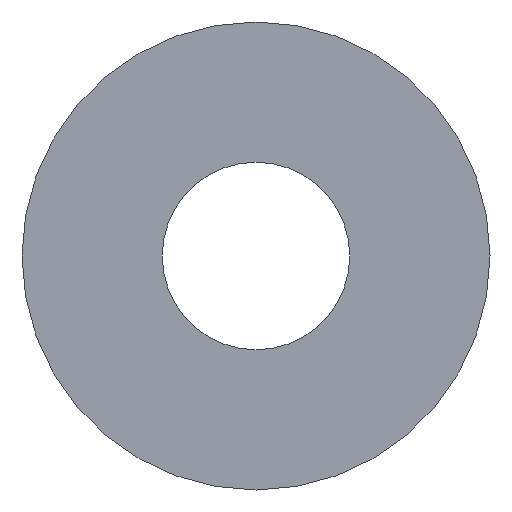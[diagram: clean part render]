
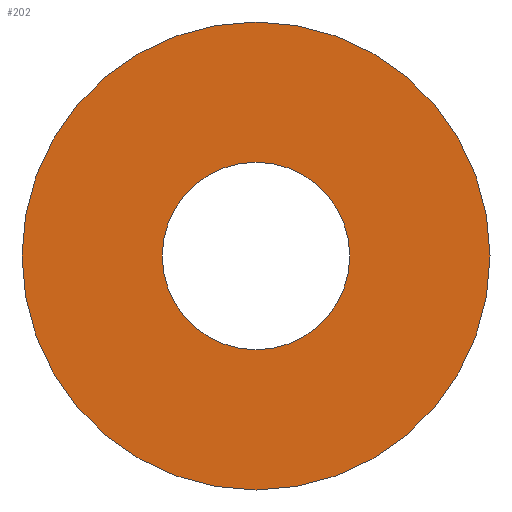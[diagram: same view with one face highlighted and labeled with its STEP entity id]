
A CAD part, front view. The second image highlights one B-rep face of the part: STEP entity #202.
In plain terms, the highlighted planar face has unit normal (0, -1, 0).
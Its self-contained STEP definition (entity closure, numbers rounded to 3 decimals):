
#21 = CARTESIAN_POINT ( 'NONE',  ( 0., 0., -94. ) ) ;
#23 = EDGE_CURVE ( 'NONE', #95, #33, #220, .T. ) ;
#28 = EDGE_CURVE ( 'NONE', #35, #226, #146, .T. ) ;
#32 = ORIENTED_EDGE ( 'NONE', *, *, #28, .F. ) ;
#33 = VERTEX_POINT ( 'NONE', #193 ) ;
#35 = VERTEX_POINT ( 'NONE', #40 ) ;
#38 = ORIENTED_EDGE ( 'NONE', *, *, #97, .T. ) ;
#40 = CARTESIAN_POINT ( 'NONE',  ( 0., 0., 234.7 ) ) ;
#43 = DIRECTION ( 'NONE',  ( 0., 0., 1. ) ) ;
#56 = DIRECTION ( 'NONE',  ( 0., 1., 0. ) ) ;
#59 = PLANE ( 'NONE',  #241 ) ;
#64 = DIRECTION ( 'NONE',  ( 0., 1., 0. ) ) ;
#76 = ORIENTED_EDGE ( 'NONE', *, *, #141, .F. ) ;
#79 = FACE_BOUND ( 'NONE', #209, .T. ) ;
#80 = DIRECTION ( 'NONE',  ( 0., 0., 1. ) ) ;
#81 = CARTESIAN_POINT ( 'NONE',  ( 0., 0., 0. ) ) ;
#82 = DIRECTION ( 'NONE',  ( 0., 0., 1. ) ) ;
#95 = VERTEX_POINT ( 'NONE', #21 ) ;
#96 = AXIS2_PLACEMENT_3D ( 'NONE', #216, #153, #196 ) ;
#97 = EDGE_CURVE ( 'NONE', #33, #95, #120, .T. ) ;
#109 = AXIS2_PLACEMENT_3D ( 'NONE', #81, #56, #43 ) ;
#115 = AXIS2_PLACEMENT_3D ( 'NONE', #134, #215, #82 ) ;
#116 = CARTESIAN_POINT ( 'NONE',  ( 0., 0., 0. ) ) ;
#120 = CIRCLE ( 'NONE', #96, 94. ) ;
#122 = CARTESIAN_POINT ( 'NONE',  ( 0., 0., -234.7 ) ) ;
#134 = CARTESIAN_POINT ( 'NONE',  ( 0., 0., 0. ) ) ;
#141 = EDGE_CURVE ( 'NONE', #226, #35, #188, .T. ) ;
#146 = CIRCLE ( 'NONE', #115, 234.7 ) ;
#150 = ORIENTED_EDGE ( 'NONE', *, *, #23, .T. ) ;
#151 = CARTESIAN_POINT ( 'NONE',  ( 0., 0., 0. ) ) ;
#153 = DIRECTION ( 'NONE',  ( 0., 1., 0. ) ) ;
#154 = FACE_OUTER_BOUND ( 'NONE', #210, .T. ) ;
#188 = CIRCLE ( 'NONE', #194, 234.7 ) ;
#189 = DIRECTION ( 'NONE',  ( 0., 1., 0. ) ) ;
#193 = CARTESIAN_POINT ( 'NONE',  ( 0., 0., 94. ) ) ;
#194 = AXIS2_PLACEMENT_3D ( 'NONE', #116, #189, #249 ) ;
#196 = DIRECTION ( 'NONE',  ( 0., 0., 1. ) ) ;
#202 = ADVANCED_FACE ( 'NONE', ( #154, #79 ), #59, .F. ) ;
#209 = EDGE_LOOP ( 'NONE', ( #150, #38 ) ) ;
#210 = EDGE_LOOP ( 'NONE', ( #76, #32 ) ) ;
#215 = DIRECTION ( 'NONE',  ( 0., 1., 0. ) ) ;
#216 = CARTESIAN_POINT ( 'NONE',  ( 0., 0., 0. ) ) ;
#220 = CIRCLE ( 'NONE', #109, 94. ) ;
#226 = VERTEX_POINT ( 'NONE', #122 ) ;
#241 = AXIS2_PLACEMENT_3D ( 'NONE', #151, #64, #80 ) ;
#249 = DIRECTION ( 'NONE',  ( 0., 0., 1. ) ) ;
